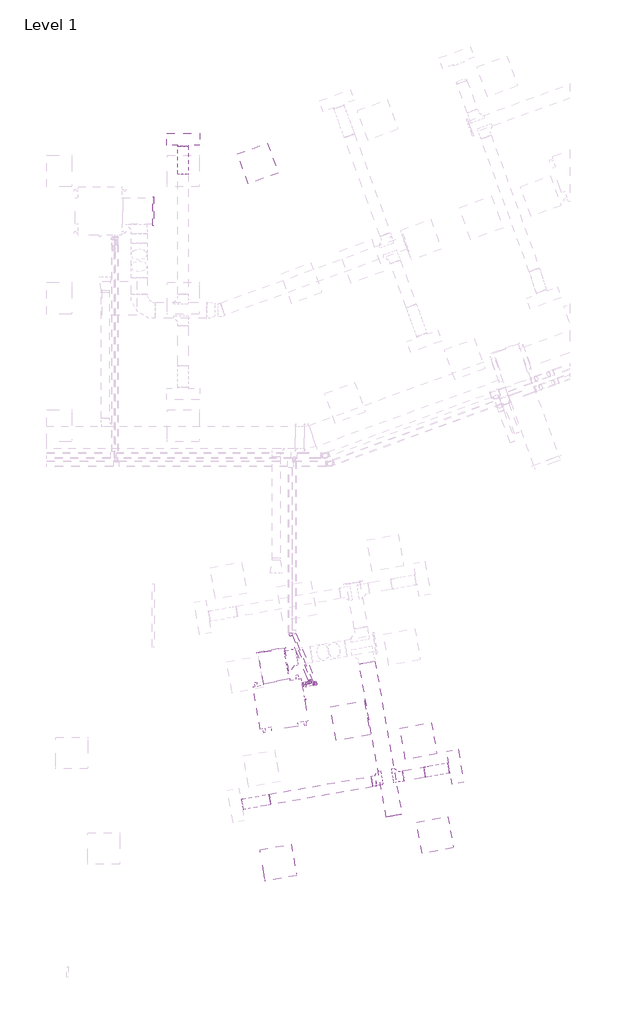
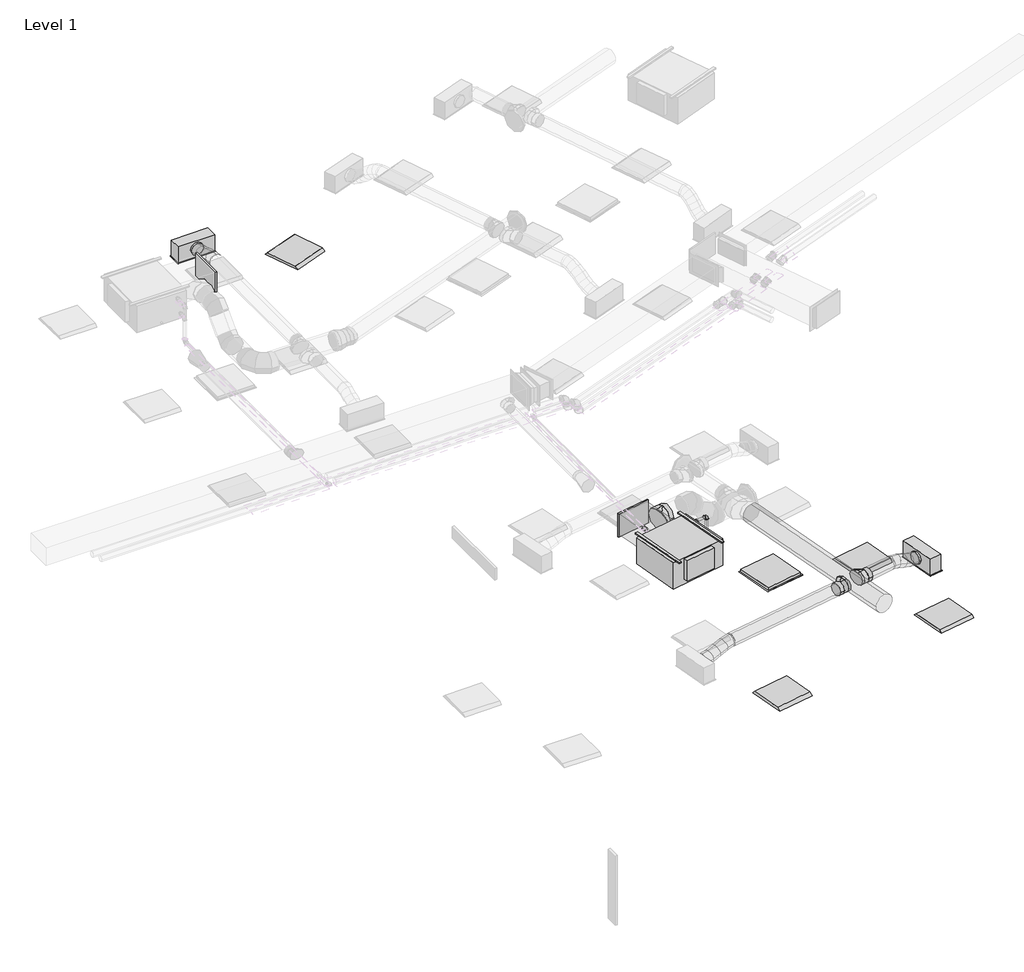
# One storey, part 15 of 30: 7 duct segments, 7 pipe fittings, 6 pipe segments, 5 duct fittings, 4 light fixtures, 3 air terminals, 1 proxy.
"""IFC4 building model written with IfcOpenShell, lengths in millimetres."""

from ifc_helpers import new_model, si_unit, point, frame, frame_2d, origin, place, context, project, spatial, polyline, circle_curve, ellipse_curve, trimmed, segment, composite_curve, outline, extrude, transform, mapped, element, save
from ifc_brep_helpers import plane_surface, cylinder_surface, advanced_brep
from components import return_grille_rectangular_hosted_standard_7b12617c, supply_diffuser_with_plenum_linear_slot_hosted_8c379eed, supply_diffuser_with_plenum_linear_slot_hosted_8e4f2f20, fan_coil_unit_ceiling_ducted_chw_376_lps_05d42c19, dw144_rectangular_blank_end_standard_8fde7d16, dw144_round_shoe_branch_slip_joint1_standard_2_3a899113, dw144_round_shoe_branch_slip_joint1_standard_2_809a1802, light_fixture_1c7c1157, light_fixture_b730b5ca, elbow_threaded_gmi_standard_b4aa7741, elbow_threaded_gmi_standard_b1050e4a, socket_reducing_threaded_gmi_standard_0a4076b8

model = new_model("IFC4")

# Units and contexts
model_context = context("Model", 3, world=origin())
ifc_project = project(units=[si_unit("LENGTHUNIT", "METRE", prefix="MILLI")], contexts=[model_context])

# Site, building, storey
site = spatial("IfcSite", under=ifc_project)
building = spatial("IfcBuilding", under=site)
storey = spatial("IfcBuildingStorey", under=building, Name="Level 1", Elevation=3900.0)

# Air terminals
placement = place(None, origin())
return_grille_rectangular_hosted_standard_shape = return_grille_rectangular_hosted_standard_7b12617c(model_context)
element("IfcAirTerminal", 1, ObjectType="Return Grille - Rectangular - Hosted : Standard", at=placement, inside=storey, context=model_context, shape_type="MappedRepresentation", body=[
    mapped(return_grille_rectangular_hosted_standard_shape, transform((33910.5082617, 3801.8100308, 6700.0), x_axis=(0.9848077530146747, 0.17364817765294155, 0.0), y_axis=(0.17364817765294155, -0.9848077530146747, 0.0), z_axis=(0.0, 0.0, -1.0))),
])
supply_diffuser_with_plenum_linear_slot_hosted_shape = supply_diffuser_with_plenum_linear_slot_hosted_8c379eed(model_context)
element("IfcAirTerminal", 2, ObjectType="Supply Diffuser with Plenum - Linear Slot - Hosted : 24\" x 8\"-200 In Inlet  4-Slot", at=placement, inside=storey, context=model_context, shape_type="MappedRepresentation", body=[
    mapped(supply_diffuser_with_plenum_linear_slot_hosted_shape, transform((30762.2000027, 14763.2000004, 6700.0), x_axis=(-1.0, 0.0, 0.0), y_axis=(0.0, 1.0, 0.0), z_axis=(0.0, 0.0, -1.0))),
])
supply_diffuser_with_plenum_linear_slot_hosted_2_shape = supply_diffuser_with_plenum_linear_slot_hosted_8e4f2f20(model_context)
element("IfcAirTerminal", 3, ObjectType="Supply Diffuser with Plenum - Linear Slot - Hosted : 24\" x 8\"-200 In Inlet  4-Slot", at=placement, inside=storey, context=model_context, shape_type="MappedRepresentation", body=[
    mapped(supply_diffuser_with_plenum_linear_slot_hosted_2_shape, transform((35891.5400303, 2932.607447, 6700.0), x_axis=(0.1736481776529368, -0.9848077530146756, 0.0), y_axis=(-0.9848077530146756, -0.1736481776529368, 0.0), z_axis=(0.0, 0.0, -1.0))),
])

# Proxy
fan_coil_unit_ceiling_ducted_chw_376_lps_shape = fan_coil_unit_ceiling_ducted_chw_376_lps_05d42c19(model_context)
element("IfcBuildingElementProxy", 4, Name="Fan Coil Unit - Ceiling Ducted - CHW : 376 LPS", ObjectType="Fan Coil Unit - Ceiling Ducted - CHW : 376 LPS", at=placement, inside=storey, context=model_context, shape_type="MappedRepresentation", body=[
    mapped(fan_coil_unit_ceiling_ducted_chw_376_lps_shape, transform((32078.1076261, 4440.8551668, 7115.575), x_axis=(0.9848077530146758, 0.17364817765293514, 0.0), y_axis=(-0.17364817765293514, 0.9848077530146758, 0.0), z_axis=(0.0, 0.0, 1.0))),
])

# Duct fittings
dw144_rectangular_blank_end_standard_shape = dw144_rectangular_blank_end_standard_8fde7d16(model_context)
element("IfcDuctFitting", 5, ObjectType="DW144 Rectangular Blank End : Standard", at=placement, inside=storey, context=model_context, shape_type="MappedRepresentation", body=[
    mapped(dw144_rectangular_blank_end_standard_shape, transform((32422.2764887, 5121.8864184, 7369.575), x_axis=(-0.17364817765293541, 0.9848077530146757, 0.0), y_axis=(-0.9848077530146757, -0.17364817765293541, 0.0), z_axis=(0.0, 0.0, 1.0))),
])
element("IfcDuctFitting", 6, ObjectType="DW144 Rectangular Blank End : Standard", at=placement, inside=storey, context=model_context, shape_type="MappedRepresentation", body=[
    mapped(dw144_rectangular_blank_end_standard_shape, transform((30186.2561025, 13406.0000004, 7369.575), x_axis=(1.0, 0.0, 0.0), y_axis=(0.0, 1.0, 0.0), z_axis=(0.0, 0.0, 1.0))),
])
dw144_round_shoe_branch_slip_joint1_standard_2_shape = dw144_round_shoe_branch_slip_joint1_standard_2_3a899113(model_context)
element("IfcDuctFitting", 7, ObjectType="DW144 Round Shoe Branch - Slip Joint1 : Standard 2", at=placement, inside=storey, context=model_context, shape_type="MappedRepresentation", body=[
    mapped(dw144_round_shoe_branch_slip_joint1_standard_2_shape, transform((34466.8544313, 2681.3969368, 6972.2088531), x_axis=(-0.9848077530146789, -0.17364817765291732, 0.0), y_axis=(0.17364817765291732, -0.9848077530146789, 0.0), z_axis=(0.0, 0.0, 1.0))),
])
element("IfcDuctFitting", 8, ObjectType="DW144 Round Shoe Branch - Slip Joint1 : Standard 2", at=placement, inside=storey, context=model_context, shape_type="MappedRepresentation", body=[
    mapped(dw144_round_shoe_branch_slip_joint1_standard_2_shape, transform((34762.2967572, 2733.4913901, 6972.2088531), x_axis=(0.9848077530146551, 0.1736481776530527, 0.0), y_axis=(0.1736481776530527, -0.9848077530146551, 0.0), z_axis=(0.0, 0.0, -1.0))),
])
dw144_round_shoe_branch_slip_joint1_standard_2_2_shape = dw144_round_shoe_branch_slip_joint1_standard_2_809a1802(model_context)
element("IfcDuctFitting", 9, ObjectType="DW144 Round Shoe Branch - Slip Joint1 : Standard 2", at=placement, inside=storey, context=model_context, shape_type="MappedRepresentation", body=[
    mapped(dw144_round_shoe_branch_slip_joint1_standard_2_2_shape, transform((32703.167519, 4968.5668456, 7369.575), x_axis=(0.9848077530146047, 0.17364817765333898, 0.0), y_axis=(-0.17364817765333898, 0.9848077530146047, 0.0), z_axis=(0.0, 0.0, 1.0))),
])

# Duct segments
element("IfcDuctSegment", 10, ObjectType="DW144 Flanged Med Radius Bend / Shoe Branch", at=placement, inside=storey, context=model_context, shape_type="SweptSolid", body=[
    extrude(outline(polyline([(32770.1530053, 4588.6732749), (32277.7491288, 4501.8491861), (32176.0745504, 5078.474374), (32668.4784269, 5165.2984628), (32770.1530053, 4588.6732749)])), frame((0.0, 0.0, 7194.575), z_axis=(0.0, 0.0, 1.0), x_axis=(1.0, 0.0, 0.0)), (0.0, 0.0, 1.0), 350.0),
])
element("IfcDuctSegment", 11, ObjectType="DW144 Segmented Bend / Shoe Branch", at=placement, inside=storey, context=model_context, shape_type="SweptSolid", body=[
    extrude(outline(composite_curve([segment(trimmed(circle_curve(frame_2d((0.0, 100.0)), 100.0), [point((100.0, 100.0))], [point((0.0, 0.0))], False, "CARTESIAN"), True, "CONTINUOUS"), segment(trimmed(circle_curve(frame_2d((0.0, 100.0)), 100.0), [point((0.0, 0.0))], [point((-100.0, 100.0))], False, "CARTESIAN"), True, "CONTINUOUS"), segment(trimmed(circle_curve(frame_2d((0.0, 100.0)), 100.0), [point((-100.0, 100.0))], [point((0.0, 200.0))], False, "CARTESIAN"), True, "CONTINUOUS"), segment(trimmed(circle_curve(frame_2d((0.0, 100.0)), 100.0), [point((0.0, 200.0))], [point((100.0, 100.0))], False, "CARTESIAN"), True, "CONTINUOUS")], self_intersect=False)), frame((34910.0179201, 2759.5386168, 7072.2088531), z_axis=(0.9848077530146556, 0.1736481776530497, 0.0), x_axis=(0.1736481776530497, -0.9848077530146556, 0.0)), (0.0, 0.0, 1.0), 410.0),
])
element("IfcDuctSegment", 12, ObjectType="DW144 Segmented Bend / Shoe Branch", at=placement, inside=storey, context=model_context, shape_type="SweptSolid", body=[
    extrude(outline(composite_curve([segment(trimmed(circle_curve(frame_2d((0.0, -100.0)), 100.0), [point((-100.0, -100.0))], [point((0.0, 0.0))], False, "CARTESIAN"), True, "CONTINUOUS"), segment(trimmed(circle_curve(frame_2d((0.0, -100.0)), 100.0), [point((0.0, 0.0))], [point((100.0, -100.0))], False, "CARTESIAN"), True, "CONTINUOUS"), segment(trimmed(circle_curve(frame_2d((0.0, -100.0)), 100.0), [point((100.0, -100.0))], [point((0.0, -200.0))], False, "CARTESIAN"), True, "CONTINUOUS"), segment(trimmed(circle_curve(frame_2d((0.0, -100.0)), 100.0), [point((0.0, -200.0))], [point((-100.0, -100.0))], False, "CARTESIAN"), True, "CONTINUOUS")], self_intersect=False)), frame((32398.75815, 2316.7357638, 6872.2088531), z_axis=(0.9848077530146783, 0.1736481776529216, 0.0), x_axis=(0.1736481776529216, -0.9848077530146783, 0.0)), (0.0, 0.0, 1.0), 1950.0),
])
element("IfcDuctSegment", 13, ObjectType="DW144 Segmented Bend / Shoe Branch", at=placement, inside=storey, context=model_context, shape_type="SweptSolid", body=[
    extrude(outline(composite_curve([segment(trimmed(circle_curve(frame_2d((0.0, -150.0)), 150.0), [point((-150.0, -150.0))], [point((0.0, 0.0))], False, "CARTESIAN"), True, "CONTINUOUS"), segment(trimmed(circle_curve(frame_2d((0.0, -150.0)), 150.0), [point((0.0, 0.0))], [point((150.0, -150.0))], False, "CARTESIAN"), True, "CONTINUOUS"), segment(trimmed(circle_curve(frame_2d((0.0, -150.0)), 150.0), [point((150.0, -150.0))], [point((0.0, -300.0))], False, "CARTESIAN"), True, "CONTINUOUS"), segment(trimmed(circle_curve(frame_2d((0.0, -150.0)), 150.0), [point((0.0, -300.0))], [point((-150.0, -150.0))], False, "CARTESIAN"), True, "CONTINUOUS")], self_intersect=False)), frame((34737.6074608, 2009.6957754, 6822.2088531), z_axis=(-0.17364817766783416, 0.9848077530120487, 0.0), x_axis=(0.9848077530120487, 0.17364817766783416, 0.0)), (0.0, 0.0, 1.0), 2934.6959585),
])
element("IfcDuctSegment", 14, ObjectType="Flex - Round", at=placement, inside=storey, context=model_context, shape_type="AdvancedBrep", body=[
    advanced_brep(
    [(32416.1229677, 2218.2549885, 6972.2088531), (32398.75815, 2316.7357638, 6872.2088531), (32381.3933322, 2415.2165391, 6972.2088531), (32398.75815, 2316.7357638, 7072.2088531), (32402.5549785, 2215.8625859, 6972.2088531), (32392.7898887, 2315.6833983, 6872.2088531), (32367.825343, 2412.8241365, 6972.2088531), (32377.5904327, 2313.0033241, 7072.2088531), (31899.6540048, 2127.1875756, 6854.4), (31882.289187, 2225.6683509, 6954.4), (31864.9243693, 2324.1491262, 6854.4), (31882.289187, 2225.6683509, 6754.4), (32285.7990868, 2195.275372, 6953.8012198), (32290.7682954, 2297.6942388, 6856.1242166), (32251.0694513, 2392.2369226, 6953.8012198), (32246.1002427, 2289.8180559, 7051.478223), (32157.8884863, 2172.721282, 6913.3044266), (32169.8374093, 2276.3708607, 6817.8372171), (32123.1588507, 2369.6828326, 6913.3044266), (32111.2099277, 2266.0332539, 7008.771636), (32029.9778857, 2150.167192, 6872.8076333), (32034.9470943, 2252.5860588, 6775.1306301), (31995.2482502, 2347.1287427, 6872.8076333), (31990.2790416, 2244.7098759, 6970.4846365), (31913.221994, 2129.5799782, 6854.4), (31903.4569043, 2229.4007906, 6754.4), (31878.4923585, 2326.5415288, 6854.4), (31888.2574483, 2226.7207164, 6954.4)],
    [
        (0, 1, circle_curve(frame((32398.75815, 2316.7357638, 6972.2088531), z_axis=(0.9848077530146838, 0.17364817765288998, 0.0), x_axis=(0.17364817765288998, -0.9848077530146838, 0.0)), 100.0)),
        (1, 2, circle_curve(frame((32398.75815, 2316.7357638, 6972.2088531), z_axis=(0.9848077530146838, 0.17364817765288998, 0.0), x_axis=(0.17364817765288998, -0.9848077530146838, 0.0)), 100.0)),
        (2, 3, circle_curve(frame((32398.75815, 2316.7357638, 6972.2088531), z_axis=(0.9848077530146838, 0.17364817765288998, 0.0), x_axis=(0.17364817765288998, -0.9848077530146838, 0.0)), 100.0)),
        (3, 0, circle_curve(frame((32398.75815, 2316.7357638, 6972.2088531), z_axis=(0.9848077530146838, 0.17364817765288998, 0.0), x_axis=(0.17364817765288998, -0.9848077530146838, 0.0)), 100.0)),
        (0, 4),
        (4, 5, ellipse_curve(frame((32385.1901607, 2314.3433612, 6972.2088531), z_axis=(0.9818884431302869, 0.17313342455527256, 0.07694090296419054), x_axis=(0.07577199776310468, 0.013360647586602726, -0.997035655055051)), 100.2973158, 100.0)),
        (5, 1),
        (5, 6, ellipse_curve(frame((32385.1901607, 2314.3433612, 6972.2088531), z_axis=(0.9818884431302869, 0.17313342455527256, 0.07694090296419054), x_axis=(0.07577199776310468, 0.013360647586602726, -0.997035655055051)), 100.2973158, 100.0)),
        (6, 2),
        (6, 7, ellipse_curve(frame((32385.1901607, 2314.3433612, 6972.2088531), z_axis=(0.9818884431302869, 0.17313342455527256, 0.07694090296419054), x_axis=(0.07577199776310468, 0.013360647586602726, -0.997035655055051)), 100.2973158, 100.0)),
        (7, 3),
        (7, 4, ellipse_curve(frame((32385.1901607, 2314.3433612, 6972.2088531), z_axis=(0.9818884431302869, 0.17313342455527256, 0.07694090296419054), x_axis=(0.07577199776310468, 0.013360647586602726, -0.997035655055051)), 100.2973158, 100.0)),
        (8, 9, circle_curve(frame((31882.289187, 2225.6683509, 6854.4), z_axis=(-0.9848077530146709, -0.1736481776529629, 0.0), x_axis=(0.1736481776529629, -0.9848077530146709, 0.0)), 100.0)),
        (9, 10, circle_curve(frame((31882.289187, 2225.6683509, 6854.4), z_axis=(-0.9848077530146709, -0.1736481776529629, 0.0), x_axis=(0.1736481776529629, -0.9848077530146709, 0.0)), 100.0)),
        (10, 11, circle_curve(frame((31882.289187, 2225.6683509, 6854.4), z_axis=(-0.9848077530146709, -0.1736481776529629, 0.0), x_axis=(0.1736481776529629, -0.9848077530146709, 0.0)), 100.0)),
        (11, 8, circle_curve(frame((31882.289187, 2225.6683509, 6854.4), z_axis=(-0.9848077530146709, -0.1736481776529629, 0.0), x_axis=(0.1736481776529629, -0.9848077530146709, 0.0)), 100.0)),
        (4, 12),
        (12, 13, ellipse_curve(frame((32268.4342691, 2293.7561473, 6953.8012198), z_axis=(0.9592908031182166, 0.1691488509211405, 0.22616326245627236), x_axis=(0.22272733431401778, 0.03927283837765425, -0.9740894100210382)), 100.2751926, 100.0)),
        (13, 5),
        (13, 14, ellipse_curve(frame((32268.4342691, 2293.7561473, 6953.8012198), z_axis=(0.9592908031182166, 0.1691488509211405, 0.22616326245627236), x_axis=(0.22272733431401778, 0.03927283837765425, -0.9740894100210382)), 100.2751926, 100.0)),
        (14, 6),
        (14, 15, ellipse_curve(frame((32268.4342691, 2293.7561473, 6953.8012198), z_axis=(0.9592908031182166, 0.1691488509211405, 0.22616326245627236), x_axis=(0.22272733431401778, 0.03927283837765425, -0.9740894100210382)), 100.2751926, 100.0)),
        (15, 7),
        (15, 12, ellipse_curve(frame((32268.4342691, 2293.7561473, 6953.8012198), z_axis=(0.9592908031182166, 0.1691488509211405, 0.22616326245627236), x_axis=(0.22272733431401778, 0.03927283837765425, -0.9740894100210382)), 100.2751926, 100.0)),
        (12, 16),
        (16, 17, circle_curve(frame((32140.5236685, 2271.2020573, 6913.3044266), z_axis=(0.9401684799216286, 0.1657770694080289, 0.29765952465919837), x_axis=(0.17364817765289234, -0.9848077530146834, 0.0)), 100.0)),
        (17, 13),
        (17, 18, circle_curve(frame((32140.5236685, 2271.2020573, 6913.3044266), z_axis=(0.9401684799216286, 0.1657770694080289, 0.29765952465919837), x_axis=(0.17364817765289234, -0.9848077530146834, 0.0)), 100.0)),
        (18, 14),
        (18, 19, circle_curve(frame((32140.5236685, 2271.2020573, 6913.3044266), z_axis=(0.9401684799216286, 0.1657770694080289, 0.29765952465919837), x_axis=(0.17364817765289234, -0.9848077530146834, 0.0)), 100.0)),
        (19, 15),
        (19, 16, circle_curve(frame((32140.5236685, 2271.2020573, 6913.3044266), z_axis=(0.9401684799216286, 0.1657770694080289, 0.29765952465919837), x_axis=(0.17364817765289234, -0.9848077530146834, 0.0)), 100.0)),
        (16, 20),
        (20, 21, ellipse_curve(frame((32012.6130679, 2248.6479673, 6872.8076333), z_axis=(0.9592908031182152, 0.16914885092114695, 0.22616326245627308), x_axis=(-0.22272733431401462, -0.03927283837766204, 0.9740894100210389)), 100.2751926, 100.0)),
        (21, 17),
        (21, 22, ellipse_curve(frame((32012.6130679, 2248.6479673, 6872.8076333), z_axis=(0.9592908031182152, 0.16914885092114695, 0.22616326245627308), x_axis=(-0.22272733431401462, -0.03927283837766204, 0.9740894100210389)), 100.2751926, 100.0)),
        (22, 18),
        (22, 23, ellipse_curve(frame((32012.6130679, 2248.6479673, 6872.8076333), z_axis=(0.9592908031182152, 0.16914885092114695, 0.22616326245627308), x_axis=(-0.22272733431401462, -0.03927283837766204, 0.9740894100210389)), 100.2751926, 100.0)),
        (23, 19),
        (23, 20, ellipse_curve(frame((32012.6130679, 2248.6479673, 6872.8076333), z_axis=(0.9592908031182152, 0.16914885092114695, 0.22616326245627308), x_axis=(-0.22272733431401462, -0.03927283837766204, 0.9740894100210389)), 100.2751926, 100.0)),
        (20, 24),
        (24, 25, ellipse_curve(frame((31895.8571763, 2228.0607535, 6854.4), z_axis=(0.9818884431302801, 0.17313342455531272, 0.07694090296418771), x_axis=(-0.0757719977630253, -0.013360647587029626, 0.9970356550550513)), 100.2973158, 100.0)),
        (25, 21),
        (25, 26, ellipse_curve(frame((31895.8571763, 2228.0607535, 6854.4), z_axis=(0.9818884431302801, 0.17313342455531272, 0.07694090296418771), x_axis=(-0.0757719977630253, -0.013360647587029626, 0.9970356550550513)), 100.2973158, 100.0)),
        (26, 22),
        (26, 27, ellipse_curve(frame((31895.8571763, 2228.0607535, 6854.4), z_axis=(0.9818884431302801, 0.17313342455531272, 0.07694090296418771), x_axis=(-0.0757719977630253, -0.013360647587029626, 0.9970356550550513)), 100.2973158, 100.0)),
        (27, 23),
        (27, 24, ellipse_curve(frame((31895.8571763, 2228.0607535, 6854.4), z_axis=(0.9818884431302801, 0.17313342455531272, 0.07694090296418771), x_axis=(-0.0757719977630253, -0.013360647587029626, 0.9970356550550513)), 100.2973158, 100.0)),
        (24, 8),
        (11, 25),
        (10, 26),
        (9, 27),
    ],
    [
        plane_surface(frame((32398.75815, 2316.7357638, 6872.2088531), z_axis=(0.9848077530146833, 0.17364817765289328, 0.0), x_axis=(0.17364817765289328, -0.9848077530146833, 0.0))),
        cylinder_surface(frame((32398.75815, 2316.7357638, 6972.2088531), z_axis=(0.9848077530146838, 0.17364817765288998, 0.0), x_axis=(0.17364817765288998, -0.9848077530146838, 0.0)), 100.0),
        plane_surface(frame((31882.289187, 2225.6683509, 6754.4), z_axis=(-0.9848077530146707, -0.1736481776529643, 0.0), x_axis=(0.1736481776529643, -0.9848077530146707, 0.0))),
        cylinder_surface(frame((32385.1901607, 2314.3433612, 6972.2088531), z_axis=(0.9731478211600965, 0.17159221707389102, 0.15342564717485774), x_axis=(0.17364817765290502, -0.9848077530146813, 0.0)), 100.0),
        cylinder_surface(frame((32268.4342691, 2293.7561473, 6953.8012198), z_axis=(0.9401684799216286, 0.1657770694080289, 0.29765952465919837), x_axis=(0.17364817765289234, -0.9848077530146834, 0.0)), 100.0),
        cylinder_surface(frame((32140.5236685, 2271.2020573, 6913.3044266), z_axis=(0.9401684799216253, 0.16577706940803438, 0.2976595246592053), x_axis=(0.17364817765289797, -0.9848077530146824, 0.0)), 100.0),
        cylinder_surface(frame((32012.6130679, 2248.6479673, 6872.8076333), z_axis=(0.9731478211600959, 0.1715922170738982, 0.153425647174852), x_axis=(0.17364817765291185, -0.9848077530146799, 0.0)), 100.0),
        cylinder_surface(frame((31895.8571763, 2228.0607535, 6854.4), z_axis=(0.9848077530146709, 0.1736481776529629, 0.0), x_axis=(0.1736481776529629, -0.9848077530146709, 0.0)), 100.0),
    ],
    [
        (0, [[1, 2, 3, 4]]),
        (1, [[-1, 5, 6, 7]]),
        (1, [[-2, -7, 8, 9]]),
        (1, [[-3, -9, 10, 11]]),
        (1, [[-4, -11, 12, -5]]),
        (2, [[13, 14, 15, 16]]),
        (3, [[-6, 17, 18, 19]]),
        (3, [[-8, -19, 20, 21]]),
        (3, [[-10, -21, 22, 23]]),
        (3, [[-12, -23, 24, -17]]),
        (4, [[-18, 25, 26, 27]]),
        (4, [[-20, -27, 28, 29]]),
        (4, [[-22, -29, 30, 31]]),
        (4, [[-24, -31, 32, -25]]),
        (5, [[-26, 33, 34, 35]]),
        (5, [[-28, -35, 36, 37]]),
        (5, [[-30, -37, 38, 39]]),
        (5, [[-32, -39, 40, -33]]),
        (6, [[-34, 41, 42, 43]]),
        (6, [[-36, -43, 44, 45]]),
        (6, [[-38, -45, 46, 47]]),
        (6, [[-40, -47, 48, -41]]),
        (7, [[-42, 49, -16, 50]]),
        (7, [[-44, -50, -15, 51]]),
        (7, [[-46, -51, -14, 52]]),
        (7, [[-48, -52, -13, -49]]),
    ],
),
])
element("IfcDuctSegment", 15, ObjectType="Flex - Round", at=placement, inside=storey, context=model_context, shape_type="AdvancedBrep", body=[
    advanced_brep(
    [(35296.4242811, 2929.2151449, 6972.2088531), (35313.7890989, 2830.7343696, 6872.2088531), (35331.1539166, 2732.2535943, 6972.2088531), (35313.7890989, 2830.7343696, 7072.2088531), (35311.8796078, 2931.940336, 6972.2088531), (35320.2687944, 2831.8769148, 6872.2088531), (35346.6092434, 2734.9787854, 6972.2088531), (35338.2200568, 2835.0422067, 7072.2088531), (35747.2334932, 3008.7049722, 6854.4), (35764.598311, 2910.2241969, 6954.4), (35781.9631287, 2811.7434216, 6854.4), (35764.598311, 2910.2241969, 6754.4), (35410.503757, 2949.3304345, 6953.8012198), (35402.1917374, 2846.32214, 6856.9184044), (35445.2333925, 2752.3688839, 6953.8012198), (35453.545412, 2855.3771784, 7050.6840352), (35521.8288872, 2968.9600585, 6913.3044266), (35505.9805148, 2864.6229017, 6819.1631137), (35556.5585227, 2771.9985079, 6913.3044266), (35572.4068951, 2876.3356648, 7007.4457395), (35633.1540174, 2988.5896826, 6872.8076333), (35624.8419978, 2885.5813881, 6775.9248179), (35667.8836529, 2791.628132, 6872.8076333), (35676.1956724, 2894.6364265, 6969.6904487), (35731.7781665, 3005.9797811, 6854.4), (35740.1673531, 2905.9163598, 6754.4), (35766.507802, 2809.0182305, 6854.4), (35758.1186154, 2909.0816517, 6954.4)],
    [
        (0, 1, circle_curve(frame((35313.7890989, 2830.7343696, 6972.2088531), z_axis=(-0.984807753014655, -0.1736481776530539, 0.0), x_axis=(-0.1736481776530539, 0.984807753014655, 0.0)), 100.0)),
        (1, 2, circle_curve(frame((35313.7890989, 2830.7343696, 6972.2088531), z_axis=(-0.984807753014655, -0.1736481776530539, 0.0), x_axis=(-0.1736481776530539, 0.984807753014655, 0.0)), 100.0)),
        (2, 3, circle_curve(frame((35313.7890989, 2830.7343696, 6972.2088531), z_axis=(-0.984807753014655, -0.1736481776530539, 0.0), x_axis=(-0.1736481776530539, 0.984807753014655, 0.0)), 100.0)),
        (3, 0, circle_curve(frame((35313.7890989, 2830.7343696, 6972.2088531), z_axis=(-0.984807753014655, -0.1736481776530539, 0.0), x_axis=(-0.1736481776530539, 0.984807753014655, 0.0)), 100.0)),
        (0, 4),
        (4, 5, ellipse_curve(frame((35329.2444256, 2833.4595607, 6972.2088531), z_axis=(-0.9807428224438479, -0.1729314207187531, 0.09076475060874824), x_axis=(-0.08938583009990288, -0.015761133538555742, -0.9958723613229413)), 100.4144747, 100.0)),
        (5, 1),
        (5, 6, ellipse_curve(frame((35329.2444256, 2833.4595607, 6972.2088531), z_axis=(-0.9807428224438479, -0.1729314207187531, 0.09076475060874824), x_axis=(-0.08938583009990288, -0.015761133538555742, -0.9958723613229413)), 100.4144747, 100.0)),
        (6, 2),
        (6, 7, ellipse_curve(frame((35329.2444256, 2833.4595607, 6972.2088531), z_axis=(-0.9807428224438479, -0.1729314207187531, 0.09076475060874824), x_axis=(-0.08938583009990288, -0.015761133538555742, -0.9958723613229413)), 100.4144747, 100.0)),
        (7, 3),
        (7, 4, ellipse_curve(frame((35329.2444256, 2833.4595607, 6972.2088531), z_axis=(-0.9807428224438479, -0.1729314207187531, 0.09076475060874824), x_axis=(-0.08938583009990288, -0.015761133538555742, -0.9958723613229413)), 100.4144747, 100.0)),
        (8, 9, circle_curve(frame((35764.598311, 2910.2241969, 6854.4), z_axis=(0.9848077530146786, 0.1736481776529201, 0.0), x_axis=(-0.1736481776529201, 0.9848077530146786, 0.0)), 100.0)),
        (9, 10, circle_curve(frame((35764.598311, 2910.2241969, 6854.4), z_axis=(0.9848077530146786, 0.1736481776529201, 0.0), x_axis=(-0.1736481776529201, 0.9848077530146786, 0.0)), 100.0)),
        (10, 11, circle_curve(frame((35764.598311, 2910.2241969, 6854.4), z_axis=(0.9848077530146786, 0.1736481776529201, 0.0), x_axis=(-0.1736481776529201, 0.9848077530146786, 0.0)), 100.0)),
        (11, 8, circle_curve(frame((35764.598311, 2910.2241969, 6854.4), z_axis=(0.9848077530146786, 0.1736481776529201, 0.0), x_axis=(-0.1736481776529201, 0.9848077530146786, 0.0)), 100.0)),
        (4, 12),
        (12, 13, ellipse_curve(frame((35427.8685747, 2850.8496592, 6953.8012198), z_axis=(-0.9509727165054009, -0.16768214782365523, 0.2598722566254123), x_axis=(-0.25592421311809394, -0.045126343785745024, -0.9656430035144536)), 100.3298476, 100.0)),
        (13, 5),
        (13, 14, ellipse_curve(frame((35427.8685747, 2850.8496592, 6953.8012198), z_axis=(-0.9509727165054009, -0.16768214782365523, 0.2598722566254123), x_axis=(-0.25592421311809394, -0.045126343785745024, -0.9656430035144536)), 100.3298476, 100.0)),
        (14, 6),
        (14, 15, ellipse_curve(frame((35427.8685747, 2850.8496592, 6953.8012198), z_axis=(-0.9509727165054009, -0.16768214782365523, 0.2598722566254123), x_axis=(-0.25592421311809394, -0.045126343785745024, -0.9656430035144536)), 100.3298476, 100.0)),
        (15, 7),
        (15, 12, ellipse_curve(frame((35427.8685747, 2850.8496592, 6953.8012198), z_axis=(-0.9509727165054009, -0.16768214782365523, 0.2598722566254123), x_axis=(-0.25592421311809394, -0.045126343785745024, -0.9656430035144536)), 100.3298476, 100.0)),
        (12, 16),
        (16, 17, circle_curve(frame((35539.1937049, 2870.4792832, 6913.3044266), z_axis=(-0.9271109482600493, -0.16347467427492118, 0.33725557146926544), x_axis=(-0.1736481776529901, 0.9848077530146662, 0.0)), 100.0)),
        (17, 13),
        (17, 18, circle_curve(frame((35539.1937049, 2870.4792832, 6913.3044266), z_axis=(-0.9271109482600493, -0.16347467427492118, 0.33725557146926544), x_axis=(-0.1736481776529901, 0.9848077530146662, 0.0)), 100.0)),
        (18, 14),
        (18, 19, circle_curve(frame((35539.1937049, 2870.4792832, 6913.3044266), z_axis=(-0.9271109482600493, -0.16347467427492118, 0.33725557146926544), x_axis=(-0.1736481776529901, 0.9848077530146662, 0.0)), 100.0)),
        (19, 15),
        (19, 16, circle_curve(frame((35539.1937049, 2870.4792832, 6913.3044266), z_axis=(-0.9271109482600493, -0.16347467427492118, 0.33725557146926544), x_axis=(-0.1736481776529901, 0.9848077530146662, 0.0)), 100.0)),
        (16, 20),
        (20, 21, ellipse_curve(frame((35650.5188351, 2890.1089073, 6872.8076333), z_axis=(-0.95097271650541, -0.16768214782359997, 0.2598722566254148), x_axis=(0.25592421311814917, 0.045126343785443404, 0.9656430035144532)), 100.3298476, 100.0)),
        (21, 17),
        (21, 22, ellipse_curve(frame((35650.5188351, 2890.1089073, 6872.8076333), z_axis=(-0.95097271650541, -0.16768214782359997, 0.2598722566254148), x_axis=(0.25592421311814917, 0.045126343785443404, 0.9656430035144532)), 100.3298476, 100.0)),
        (22, 18),
        (22, 23, ellipse_curve(frame((35650.5188351, 2890.1089073, 6872.8076333), z_axis=(-0.95097271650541, -0.16768214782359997, 0.2598722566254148), x_axis=(0.25592421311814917, 0.045126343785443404, 0.9656430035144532)), 100.3298476, 100.0)),
        (23, 19),
        (23, 20, ellipse_curve(frame((35650.5188351, 2890.1089073, 6872.8076333), z_axis=(-0.95097271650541, -0.16768214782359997, 0.2598722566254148), x_axis=(0.25592421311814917, 0.045126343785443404, 0.9656430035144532)), 100.3298476, 100.0)),
        (20, 24),
        (24, 25, ellipse_curve(frame((35749.1429843, 2907.4990058, 6854.4), z_axis=(-0.9807428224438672, -0.17293142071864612, 0.09076475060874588), x_axis=(0.08938583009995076, 0.015761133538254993, 0.995872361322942)), 100.4144747, 100.0)),
        (25, 21),
        (25, 26, ellipse_curve(frame((35749.1429843, 2907.4990058, 6854.4), z_axis=(-0.9807428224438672, -0.17293142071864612, 0.09076475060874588), x_axis=(0.08938583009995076, 0.015761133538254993, 0.995872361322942)), 100.4144747, 100.0)),
        (26, 22),
        (26, 27, ellipse_curve(frame((35749.1429843, 2907.4990058, 6854.4), z_axis=(-0.9807428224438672, -0.17293142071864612, 0.09076475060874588), x_axis=(0.08938583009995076, 0.015761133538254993, 0.995872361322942)), 100.4144747, 100.0)),
        (27, 23),
        (27, 24, ellipse_curve(frame((35749.1429843, 2907.4990058, 6854.4), z_axis=(-0.9807428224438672, -0.17293142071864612, 0.09076475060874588), x_axis=(0.08938583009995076, 0.015761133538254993, 0.995872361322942)), 100.4144747, 100.0)),
        (24, 8),
        (11, 25),
        (10, 26),
        (9, 27),
    ],
    [
        plane_surface(frame((35313.7890989, 2830.7343696, 7072.2088531), z_axis=(-0.9848077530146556, -0.1736481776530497, 0.0), x_axis=(0.1736481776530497, -0.9848077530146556, 0.0))),
        cylinder_surface(frame((35313.7890989, 2830.7343696, 6972.2088531), z_axis=(-0.984807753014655, -0.1736481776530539, 0.0), x_axis=(-0.1736481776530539, 0.984807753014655, 0.0)), 100.0),
        plane_surface(frame((35764.598311, 2910.2241969, 6954.4), z_axis=(0.9848077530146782, 0.17364817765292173, 0.0), x_axis=(0.17364817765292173, -0.9848077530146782, 0.0))),
        cylinder_surface(frame((35329.2444256, 2833.4595607, 6972.2088531), z_axis=(-0.9685815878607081, -0.17078706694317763, 0.18078021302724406), x_axis=(-0.1736481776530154, 0.9848077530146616, 0.0)), 100.0),
        cylinder_surface(frame((35427.8685747, 2850.8496592, 6953.8012198), z_axis=(-0.9271109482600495, -0.1634746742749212, 0.3372555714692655), x_axis=(-0.1736481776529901, 0.9848077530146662, 0.0)), 100.0),
        cylinder_surface(frame((35539.1937049, 2870.4792832, 6913.3044266), z_axis=(-0.9271109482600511, -0.16347467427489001, 0.33725557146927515), x_axis=(-0.17364817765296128, 0.9848077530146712, 0.0)), 100.0),
        cylinder_surface(frame((35650.5188351, 2890.1089073, 6872.8076333), z_axis=(-0.9685815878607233, -0.17078706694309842, 0.18078021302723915), x_axis=(-0.17364817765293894, 0.9848077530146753, 0.0)), 100.0),
        cylinder_surface(frame((35749.1429843, 2907.4990058, 6854.4), z_axis=(-0.9848077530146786, -0.1736481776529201, 0.0), x_axis=(-0.1736481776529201, 0.9848077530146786, 0.0)), 100.0),
    ],
    [
        (0, [[1, 2, 3, 4]]),
        (1, [[-1, 5, 6, 7]]),
        (1, [[-2, -7, 8, 9]]),
        (1, [[-3, -9, 10, 11]]),
        (1, [[-4, -11, 12, -5]]),
        (2, [[13, 14, 15, 16]]),
        (3, [[-6, 17, 18, 19]]),
        (3, [[-8, -19, 20, 21]]),
        (3, [[-10, -21, 22, 23]]),
        (3, [[-12, -23, 24, -17]]),
        (4, [[-18, 25, 26, 27]]),
        (4, [[-20, -27, 28, 29]]),
        (4, [[-22, -29, 30, 31]]),
        (4, [[-24, -31, 32, -25]]),
        (5, [[-26, 33, 34, 35]]),
        (5, [[-28, -35, 36, 37]]),
        (5, [[-30, -37, 38, 39]]),
        (5, [[-32, -39, 40, -33]]),
        (6, [[-34, 41, 42, 43]]),
        (6, [[-36, -43, 44, 45]]),
        (6, [[-38, -45, 46, 47]]),
        (6, [[-40, -47, 48, -41]]),
        (7, [[-42, 49, -16, 50]]),
        (7, [[-44, -50, -15, 51]]),
        (7, [[-46, -51, -14, 52]]),
        (7, [[-48, -52, -13, -49]]),
    ],
),
])
element("IfcDuctSegment", 16, ObjectType="Flex - Round", at=placement, inside=storey, context=model_context, shape_type="AdvancedBrep", body=[
    advanced_brep(
    [(30662.2000027, 14100.4916128, 6972.2088531), (30762.2000027, 14100.4916128, 6872.2088531), (30862.2000027, 14100.4916128, 6972.2088531), (30762.2000027, 14100.4916128, 7072.2088531), (30662.2000027, 14114.0357302, 6972.2088531), (30762.2000027, 14106.4797066, 6872.2088531), (30862.2000027, 14114.0357302, 6972.2088531), (30762.2000027, 14121.5917538, 7072.2088531), (30662.2000027, 14634.3000004, 6854.4), (30762.2000027, 14634.3000004, 6954.4), (30862.2000027, 14634.3000004, 6854.4), (30762.2000027, 14634.3000004, 6754.4), (30662.2000027, 14235.1479623, 6953.8012198), (30762.2000027, 14212.875909, 6856.0378831), (30862.2000027, 14235.1479623, 6953.8012198), (30762.2000027, 14257.4200155, 7051.5645566), (30662.2000027, 14367.3958066, 6913.3044266), (30762.2000027, 14338.1159448, 6817.6870134), (30862.2000027, 14367.3958066, 6913.3044266), (30762.2000027, 14396.6756684, 7008.9218397), (30662.2000027, 14499.643651, 6872.8076333), (30762.2000027, 14477.3715977, 6775.0442965), (30862.2000027, 14499.643651, 6872.8076333), (30762.2000027, 14521.9157042, 6970.5709701), (30662.2000027, 14620.755883, 6854.4), (30762.2000027, 14613.1998594, 6754.4), (30862.2000027, 14620.755883, 6854.4), (30762.2000027, 14628.3119066, 6954.4)],
    [
        (0, 1, circle_curve(frame((30762.2000027, 14100.4916128, 6972.2088531), z_axis=(0.0, -1.0, 0.0), x_axis=(-1.0, 0.0, 0.0)), 100.0)),
        (1, 2, circle_curve(frame((30762.2000027, 14100.4916128, 6972.2088531), z_axis=(0.0, -1.0, 0.0), x_axis=(-1.0, 0.0, 0.0)), 100.0)),
        (2, 3, circle_curve(frame((30762.2000027, 14100.4916128, 6972.2088531), z_axis=(0.0, -1.0, 0.0), x_axis=(-1.0, 0.0, 0.0)), 100.0)),
        (3, 0, circle_curve(frame((30762.2000027, 14100.4916128, 6972.2088531), z_axis=(0.0, -1.0, 0.0), x_axis=(-1.0, 0.0, 0.0)), 100.0)),
        (0, 4),
        (4, 5, ellipse_curve(frame((30762.2000027, 14114.0357302, 6972.2088531), z_axis=(0.0, -0.9971574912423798, 0.07534545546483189), x_axis=(0.0, -0.0753454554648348, -0.9971574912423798)), 100.2850612, 100.0)),
        (5, 1),
        (5, 6, ellipse_curve(frame((30762.2000027, 14114.0357302, 6972.2088531), z_axis=(0.0, -0.9971574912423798, 0.07534545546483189), x_axis=(0.0, -0.0753454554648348, -0.9971574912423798)), 100.2850612, 100.0)),
        (6, 2),
        (6, 7, ellipse_curve(frame((30762.2000027, 14114.0357302, 6972.2088531), z_axis=(0.0, -0.9971574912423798, 0.07534545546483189), x_axis=(0.0, -0.0753454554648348, -0.9971574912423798)), 100.2850612, 100.0)),
        (7, 3),
        (7, 4, ellipse_curve(frame((30762.2000027, 14114.0357302, 6972.2088531), z_axis=(0.0, -0.9971574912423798, 0.07534545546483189), x_axis=(0.0, -0.0753454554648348, -0.9971574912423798)), 100.2850612, 100.0)),
        (8, 9, circle_curve(frame((30762.2000027, 14634.3000004, 6854.4), z_axis=(0.0, 1.0, 0.0), x_axis=(-1.0, 0.0, 0.0)), 100.0)),
        (9, 10, circle_curve(frame((30762.2000027, 14634.3000004, 6854.4), z_axis=(0.0, 1.0, 0.0), x_axis=(-1.0, 0.0, 0.0)), 100.0)),
        (10, 11, circle_curve(frame((30762.2000027, 14634.3000004, 6854.4), z_axis=(0.0, 1.0, 0.0), x_axis=(-1.0, 0.0, 0.0)), 100.0)),
        (11, 8, circle_curve(frame((30762.2000027, 14634.3000004, 6854.4), z_axis=(0.0, 1.0, 0.0), x_axis=(-1.0, 0.0, 0.0)), 100.0)),
        (4, 12),
        (12, 13, ellipse_curve(frame((30762.2000027, 14235.1479623, 6953.8012198), z_axis=(0.0, -0.9750182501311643, 0.22212476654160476), x_axis=(0.0, -0.22212476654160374, -0.9750182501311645)), 100.2682122, 100.0)),
        (13, 5),
        (13, 14, ellipse_curve(frame((30762.2000027, 14235.1479623, 6953.8012198), z_axis=(0.0, -0.9750182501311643, 0.22212476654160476), x_axis=(0.0, -0.22212476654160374, -0.9750182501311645)), 100.2682122, 100.0)),
        (14, 6),
        (14, 15, ellipse_curve(frame((30762.2000027, 14235.1479623, 6953.8012198), z_axis=(0.0, -0.9750182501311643, 0.22212476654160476), x_axis=(0.0, -0.22212476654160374, -0.9750182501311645)), 100.2682122, 100.0)),
        (15, 7),
        (15, 12, ellipse_curve(frame((30762.2000027, 14235.1479623, 6953.8012198), z_axis=(0.0, -0.9750182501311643, 0.22212476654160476), x_axis=(0.0, -0.22212476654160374, -0.9750182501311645)), 100.2682122, 100.0)),
        (12, 16),
        (16, 17, circle_curve(frame((30762.2000027, 14367.3958066, 6913.3044266), z_axis=(0.0, -0.9561741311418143, 0.29279861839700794), x_axis=(-1.0, 0.0, 0.0)), 100.0)),
        (17, 13),
        (17, 18, circle_curve(frame((30762.2000027, 14367.3958066, 6913.3044266), z_axis=(0.0, -0.9561741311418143, 0.29279861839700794), x_axis=(-1.0, 0.0, 0.0)), 100.0)),
        (18, 14),
        (18, 19, circle_curve(frame((30762.2000027, 14367.3958066, 6913.3044266), z_axis=(0.0, -0.9561741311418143, 0.29279861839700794), x_axis=(-1.0, 0.0, 0.0)), 100.0)),
        (19, 15),
        (19, 16, circle_curve(frame((30762.2000027, 14367.3958066, 6913.3044266), z_axis=(0.0, -0.9561741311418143, 0.29279861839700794), x_axis=(-1.0, 0.0, 0.0)), 100.0)),
        (16, 20),
        (20, 21, ellipse_curve(frame((30762.2000027, 14499.643651, 6872.8076333), z_axis=(0.0, -0.9750182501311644, 0.2221247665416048), x_axis=(0.0, 0.22212476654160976, 0.9750182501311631)), 100.2682122, 100.0)),
        (21, 17),
        (21, 22, ellipse_curve(frame((30762.2000027, 14499.643651, 6872.8076333), z_axis=(0.0, -0.9750182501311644, 0.2221247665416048), x_axis=(0.0, 0.22212476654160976, 0.9750182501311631)), 100.2682122, 100.0)),
        (22, 18),
        (22, 23, ellipse_curve(frame((30762.2000027, 14499.643651, 6872.8076333), z_axis=(0.0, -0.9750182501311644, 0.2221247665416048), x_axis=(0.0, 0.22212476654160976, 0.9750182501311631)), 100.2682122, 100.0)),
        (23, 19),
        (23, 20, ellipse_curve(frame((30762.2000027, 14499.643651, 6872.8076333), z_axis=(0.0, -0.9750182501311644, 0.2221247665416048), x_axis=(0.0, 0.22212476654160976, 0.9750182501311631)), 100.2682122, 100.0)),
        (20, 24),
        (24, 25, ellipse_curve(frame((30762.2000027, 14620.755883, 6854.4), z_axis=(0.0, -0.9971574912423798, 0.07534545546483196), x_axis=(0.0, 0.07534545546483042, 0.9971574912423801)), 100.2850612, 100.0)),
        (25, 21),
        (25, 26, ellipse_curve(frame((30762.2000027, 14620.755883, 6854.4), z_axis=(0.0, -0.9971574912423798, 0.07534545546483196), x_axis=(0.0, 0.07534545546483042, 0.9971574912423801)), 100.2850612, 100.0)),
        (26, 22),
        (26, 27, ellipse_curve(frame((30762.2000027, 14620.755883, 6854.4), z_axis=(0.0, -0.9971574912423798, 0.07534545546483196), x_axis=(0.0, 0.07534545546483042, 0.9971574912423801)), 100.2850612, 100.0)),
        (27, 23),
        (27, 24, ellipse_curve(frame((30762.2000027, 14620.755883, 6854.4), z_axis=(0.0, -0.9971574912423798, 0.07534545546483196), x_axis=(0.0, 0.07534545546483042, 0.9971574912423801)), 100.2850612, 100.0)),
        (24, 8),
        (11, 25),
        (10, 26),
        (9, 27),
    ],
    [
        plane_surface(frame((30662.2000027, 14100.4916128, 6972.2088531), z_axis=(0.0, -1.0, 0.0), x_axis=(0.0, 0.0, 1.0))),
        cylinder_surface(frame((30762.2000027, 14100.4916128, 6972.2088531), z_axis=(0.0, -1.0, 0.0), x_axis=(-1.0, 0.0, 0.0)), 100.0),
        plane_surface(frame((30662.2000027, 14634.3000004, 6854.4), z_axis=(0.0, 1.0, 0.0), x_axis=(0.0, 0.0, 1.0))),
        cylinder_surface(frame((30762.2000027, 14114.0357302, 6972.2088531), z_axis=(0.0, -0.9886461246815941, 0.15026257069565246), x_axis=(-1.0, 0.0, 0.0)), 100.0),
        cylinder_surface(frame((30762.2000027, 14235.1479623, 6953.8012198), z_axis=(0.0, -0.9561741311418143, 0.29279861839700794), x_axis=(-1.0, 0.0, 0.0)), 100.0),
        cylinder_surface(frame((30762.2000027, 14367.3958066, 6913.3044266), z_axis=(0.0, -0.9561741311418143, 0.29279861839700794), x_axis=(-1.0, 0.0, 0.0)), 100.0),
        cylinder_surface(frame((30762.2000027, 14499.643651, 6872.8076333), z_axis=(0.0, -0.9886461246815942, 0.15026257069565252), x_axis=(-1.0, 0.0, 0.0)), 100.0),
        cylinder_surface(frame((30762.2000027, 14620.755883, 6854.4), z_axis=(0.0, -1.0, 0.0), x_axis=(-1.0, 0.0, 0.0)), 100.0),
    ],
    [
        (0, [[1, 2, 3, 4]]),
        (1, [[-1, 5, 6, 7]]),
        (1, [[-2, -7, 8, 9]]),
        (1, [[-3, -9, 10, 11]]),
        (1, [[-4, -11, 12, -5]]),
        (2, [[13, 14, 15, 16]]),
        (3, [[-6, 17, 18, 19]]),
        (3, [[-8, -19, 20, 21]]),
        (3, [[-10, -21, 22, 23]]),
        (3, [[-12, -23, 24, -17]]),
        (4, [[-18, 25, 26, 27]]),
        (4, [[-20, -27, 28, 29]]),
        (4, [[-22, -29, 30, 31]]),
        (4, [[-24, -31, 32, -25]]),
        (5, [[-26, 33, 34, 35]]),
        (5, [[-28, -35, 36, 37]]),
        (5, [[-30, -37, 38, 39]]),
        (5, [[-32, -39, 40, -33]]),
        (6, [[-34, 41, 42, 43]]),
        (6, [[-36, -43, 44, 45]]),
        (6, [[-38, -45, 46, 47]]),
        (6, [[-40, -47, 48, -41]]),
        (7, [[-42, 49, -16, 50]]),
        (7, [[-44, -50, -15, 51]]),
        (7, [[-46, -51, -14, 52]]),
        (7, [[-48, -52, -13, -49]]),
    ],
),
])

# Light fixtures
light_fixture_shape = light_fixture_1c7c1157(model_context)
element("IfcLightFixture", 17, ObjectType="ELEKTRA Plain Recessed Lighting Fixture : 24\" x 24\" - 230", at=placement, inside=storey, context=model_context, shape_type="MappedRepresentation", body=[
    mapped(light_fixture_shape, transform((31991.14425, 13921.2017458, 6500.0), x_axis=(0.9396926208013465, 0.34202014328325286, 0.0), y_axis=(0.34202014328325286, -0.9396926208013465, 0.0), z_axis=(0.0, 0.0, -1.0))),
])
element("IfcLightFixture", 18, ObjectType="ELEKTRA Plain Recessed Lighting Fixture : 24\" x 24\" - 230", at=placement, inside=storey, context=model_context, shape_type="MappedRepresentation", body=[
    mapped(light_fixture_shape, transform((35265.6853191, 1299.1124575, 6700.0), x_axis=(0.9848077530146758, 0.17364817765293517, 0.0), y_axis=(0.17364817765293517, -0.9848077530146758, 0.0), z_axis=(0.0, 0.0, -1.0))),
])
element("IfcLightFixture", 19, ObjectType="ELEKTRA Plain Recessed Lighting Fixture : 24\" x 24\" - 230", at=placement, inside=storey, context=model_context, shape_type="MappedRepresentation", body=[
    mapped(light_fixture_shape, transform((34953.1185993, 3071.766413, 6700.0), x_axis=(0.9848077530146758, 0.17364817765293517, 0.0), y_axis=(0.17364817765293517, -0.9848077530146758, 0.0), z_axis=(0.0, 0.0, -1.0))),
])
light_fixture_2_shape = light_fixture_b730b5ca(model_context)
element("IfcLightFixture", 20, ObjectType="ELEKTRA EM Recessed Lighting Fixture : 24\" x 24\" - 230", at=placement, inside=storey, context=model_context, shape_type="MappedRepresentation", body=[
    mapped(light_fixture_2_shape, transform((32311.2620601, 778.1679246, 6700.0), x_axis=(0.9848077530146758, 0.17364817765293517, 0.0), y_axis=(0.17364817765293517, -0.9848077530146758, 0.0), z_axis=(0.0, 0.0, -1.0))),
])

# Pipe fittings
elbow_threaded_gmi_standard_shape = elbow_threaded_gmi_standard_b4aa7741(model_context)
element("IfcPipeFitting", 21, ObjectType="Elbow - Threaded - GMI : Standard", at=placement, inside=storey, context=model_context, shape_type="MappedRepresentation", body=[
    mapped(elbow_threaded_gmi_standard_shape, transform((33258.6487272, 4494.2653991, 6793.9343179), x_axis=(0.38268343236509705, -0.9238795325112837, 0.0), y_axis=(0.0, 0.0, 1.0), z_axis=(-0.9238795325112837, -0.38268343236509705, 0.0))),
])
element("IfcPipeFitting", 22, ObjectType="Elbow - Threaded - GMI : Standard", at=placement, inside=storey, context=model_context, shape_type="MappedRepresentation", body=[
    mapped(elbow_threaded_gmi_standard_shape, transform((33156.9501044, 4527.9168598, 6880.0), x_axis=(0.38268343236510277, -0.9238795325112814, 0.0), y_axis=(0.0, 0.0, 1.0), z_axis=(-0.9238795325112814, -0.38268343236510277, 0.0))),
])
element("IfcPipeFitting", 23, ObjectType="Elbow - Threaded - GMI : Standard", at=placement, inside=storey, context=model_context, shape_type="MappedRepresentation", body=[
    mapped(elbow_threaded_gmi_standard_shape, transform((33258.6487272, 4494.2653991, 7496.575), x_axis=(0.0, 0.0, 1.0), y_axis=(-0.9848077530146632, -0.17364817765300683, 0.0), z_axis=(0.17364817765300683, -0.9848077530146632, 0.0))),
])
element("IfcPipeFitting", 24, ObjectType="Elbow - Threaded - GMI : Standard", at=placement, inside=storey, context=model_context, shape_type="MappedRepresentation", body=[
    mapped(elbow_threaded_gmi_standard_shape, transform((33156.9501044, 4527.9168598, 7217.175), x_axis=(0.0, 0.0, 1.0), y_axis=(-0.9848077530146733, -0.1736481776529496, 0.0), z_axis=(0.1736481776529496, -0.9848077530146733, 0.0))),
])
elbow_threaded_gmi_standard_2_shape = elbow_threaded_gmi_standard_b1050e4a(model_context)
element("IfcPipeFitting", 25, ObjectType="Elbow - Threaded - GMI : Standard", at=placement, inside=storey, context=model_context, shape_type="MappedRepresentation", body=[
    mapped(elbow_threaded_gmi_standard_2_shape, transform((32783.0709173, 5430.5410641, 6880.0), x_axis=(0.0, -1.0, 0.0), y_axis=(1.0, 0.0, 0.0), z_axis=(0.0, 0.0, 1.0))),
])
socket_reducing_threaded_gmi_standard_shape = socket_reducing_threaded_gmi_standard_0a4076b8(model_context)
element("IfcPipeFitting", 26, ObjectType="Socket Reducing - Threaded - GMI : Standard", at=placement, inside=storey, context=model_context, shape_type="MappedRepresentation", body=[
    mapped(socket_reducing_threaded_gmi_standard_shape, transform((33021.2726072, 4503.9932564, 7217.175), x_axis=(0.9848077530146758, 0.17364817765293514, 0.0), y_axis=(-0.17364817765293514, 0.9848077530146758, 0.0), z_axis=(0.0, 0.0, 1.0))),
])
element("IfcPipeFitting", 27, ObjectType="Socket Reducing - Threaded - GMI : Standard", at=placement, inside=storey, context=model_context, shape_type="MappedRepresentation", body=[
    mapped(socket_reducing_threaded_gmi_standard_shape, transform((33030.0939346, 4453.9650226, 7496.575), x_axis=(0.9848077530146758, 0.17364817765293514, 0.0), y_axis=(-0.17364817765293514, 0.9848077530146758, 0.0), z_axis=(0.0, 0.0, 1.0))),
])

# Pipe segments
element("IfcPipeSegment", 28, ObjectType="Carbon Steel - Threaded", at=placement, inside=storey, context=model_context, shape_type="SweptSolid", body=[
    extrude(outline(composite_curve([segment(trimmed(circle_curve(frame_2d((0.0, -21.45)), 21.45), [point((-21.4499999, -21.45))], [point((0.0, 0.0))], False, "CARTESIAN"), True, "CONTINUOUS"), segment(trimmed(circle_curve(frame_2d((0.0, -21.45)), 21.45), [point((0.0, 0.0))], [point((21.45, -21.45))], False, "CARTESIAN"), True, "CONTINUOUS"), segment(trimmed(circle_curve(frame_2d((0.0, -21.45)), 21.45), [point((21.45, -21.45))], [point((0.0, -42.9))], False, "CARTESIAN"), True, "CONTINUOUS"), segment(trimmed(circle_curve(frame_2d((0.0, -21.45)), 21.45), [point((0.0, -42.9))], [point((-21.4499999, -21.45))], False, "CARTESIAN"), True, "CONTINUOUS")], self_intersect=False)), frame((33139.7293499, 4569.4914388, 6858.55), z_axis=(-0.3826834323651, 0.9238795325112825, 0.0), x_axis=(0.9238795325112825, 0.3826834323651, 0.0)), (0.0, 0.0, 1.0), 898.9933984),
])
element("IfcPipeSegment", 29, ObjectType="Carbon Steel - Threaded", at=placement, inside=storey, context=model_context, shape_type="SweptSolid", body=[
    extrude(outline(composite_curve([segment(trimmed(circle_curve(frame_2d((0.0, -21.45)), 21.45), [point((-21.45, -21.45))], [point((0.0, 0.0))], False, "CARTESIAN"), True, "CONTINUOUS"), segment(trimmed(circle_curve(frame_2d((0.0, -21.45)), 21.45), [point((0.0, 0.0))], [point((21.4499999, -21.45))], False, "CARTESIAN"), True, "CONTINUOUS"), segment(trimmed(circle_curve(frame_2d((0.0, -21.45)), 21.45), [point((21.4499999, -21.45))], [point((0.0, -42.9))], False, "CARTESIAN"), True, "CONTINUOUS"), segment(trimmed(circle_curve(frame_2d((0.0, -21.45)), 21.45), [point((0.0, -42.9))], [point((-21.45, -21.45))], False, "CARTESIAN"), True, "CONTINUOUS")], self_intersect=False)), frame((33241.4279728, 4535.839978, 6772.4843179), z_axis=(-0.38268343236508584, 0.9238795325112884, 0.0), x_axis=(0.9238795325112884, 0.38268343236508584, 0.0)), (0.0, 0.0, 1.0), 983.0031566),
])
element("IfcPipeSegment", 30, ObjectType="Carbon Steel - Threaded", at=placement, inside=storey, context=model_context, shape_type="SweptSolid", body=[
    extrude(outline(composite_curve([segment(trimmed(circle_curve(frame_2d((33258.6487272, 4494.2653991)), 21.45), [point((33237.1987272, 4494.2653991))], [point((33258.6487272, 4515.7153991))], False, "CARTESIAN"), True, "CONTINUOUS"), segment(trimmed(circle_curve(frame_2d((33258.6487272, 4494.2653991)), 21.45), [point((33258.6487272, 4515.7153991))], [point((33280.0987272, 4494.2653991))], False, "CARTESIAN"), True, "CONTINUOUS"), segment(trimmed(circle_curve(frame_2d((33258.6487272, 4494.2653991)), 21.45), [point((33280.0987272, 4494.2653991))], [point((33258.6487272, 4472.8153991))], False, "CARTESIAN"), True, "CONTINUOUS"), segment(trimmed(circle_curve(frame_2d((33258.6487272, 4494.2653991)), 21.45), [point((33258.6487272, 4472.8153991))], [point((33237.1987272, 4494.2653991))], False, "CARTESIAN"), True, "CONTINUOUS")], self_intersect=False)), frame((0.0, 0.0, 6838.9343179), z_axis=(0.0, 0.0, 1.0), x_axis=(1.0, 0.0, 0.0)), (0.0, 0.0, 1.0), 612.6406821),
])
element("IfcPipeSegment", 31, ObjectType="Carbon Steel - Threaded", at=placement, inside=storey, context=model_context, shape_type="SweptSolid", body=[
    extrude(outline(composite_curve([segment(trimmed(circle_curve(frame_2d((33156.9501044, 4527.9168598)), 21.45), [point((33135.5001044, 4527.9168598))], [point((33156.9501044, 4549.3668598))], False, "CARTESIAN"), True, "CONTINUOUS"), segment(trimmed(circle_curve(frame_2d((33156.9501044, 4527.9168598)), 21.45), [point((33156.9501044, 4549.3668598))], [point((33178.4001044, 4527.9168598))], False, "CARTESIAN"), True, "CONTINUOUS"), segment(trimmed(circle_curve(frame_2d((33156.9501044, 4527.9168598)), 21.45), [point((33178.4001044, 4527.9168598))], [point((33156.9501044, 4506.4668598))], False, "CARTESIAN"), True, "CONTINUOUS"), segment(trimmed(circle_curve(frame_2d((33156.9501044, 4527.9168598)), 21.45), [point((33156.9501044, 4506.4668598))], [point((33135.5001044, 4527.9168598))], False, "CARTESIAN"), True, "CONTINUOUS")], self_intersect=False)), frame((0.0, 0.0, 6925.0), z_axis=(0.0, 0.0, 1.0), x_axis=(1.0, 0.0, 0.0)), (0.0, 0.0, 1.0), 247.175),
])
element("IfcPipeSegment", 32, ObjectType="Carbon Steel - Threaded", at=placement, inside=storey, context=model_context, shape_type="SweptSolid", body=[
    extrude(outline(composite_curve([segment(trimmed(circle_curve(frame_2d((0.0, -21.45)), 21.45), [point((-21.45, -21.45))], [point((0.0, 0.0))], False, "CARTESIAN"), True, "CONTINUOUS"), segment(trimmed(circle_curve(frame_2d((0.0, -21.45)), 21.45), [point((0.0, 0.0))], [point((21.45, -21.45))], False, "CARTESIAN"), True, "CONTINUOUS"), segment(trimmed(circle_curve(frame_2d((0.0, -21.45)), 21.45), [point((21.45, -21.45))], [point((0.0, -42.9))], False, "CARTESIAN"), True, "CONTINUOUS"), segment(trimmed(circle_curve(frame_2d((0.0, -21.45)), 21.45), [point((0.0, -42.9))], [point((-21.45, -21.45))], False, "CARTESIAN"), True, "CONTINUOUS")], self_intersect=False)), frame((33072.4826104, 4513.0229617, 7195.725), z_axis=(0.9848077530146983, 0.17364817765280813, 0.0), x_axis=(0.17364817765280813, -0.9848077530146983, 0.0)), (0.0, 0.0, 1.0), 40.7705413),
])
element("IfcPipeSegment", 33, ObjectType="Carbon Steel - Threaded", at=placement, inside=storey, context=model_context, shape_type="SweptSolid", body=[
    extrude(outline(composite_curve([segment(trimmed(circle_curve(frame_2d((0.0, -21.45)), 21.45), [point((-21.45, -21.45))], [point((0.0, 0.0))], False, "CARTESIAN"), True, "CONTINUOUS"), segment(trimmed(circle_curve(frame_2d((0.0, -21.45)), 21.45), [point((0.0, 0.0))], [point((21.45, -21.45))], False, "CARTESIAN"), True, "CONTINUOUS"), segment(trimmed(circle_curve(frame_2d((0.0, -21.45)), 21.45), [point((21.45, -21.45))], [point((0.0, -42.9))], False, "CARTESIAN"), True, "CONTINUOUS"), segment(trimmed(circle_curve(frame_2d((0.0, -21.45)), 21.45), [point((0.0, -42.9))], [point((-21.45, -21.45))], False, "CARTESIAN"), True, "CONTINUOUS")], self_intersect=False)), frame((33081.3039378, 4462.9947278, 7475.125), z_axis=(0.9848077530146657, 0.17364817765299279, 0.0), x_axis=(0.17364817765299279, -0.9848077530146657, 0.0)), (0.0, 0.0, 1.0), 135.0806187),
])

save(model, "model.ifc")
